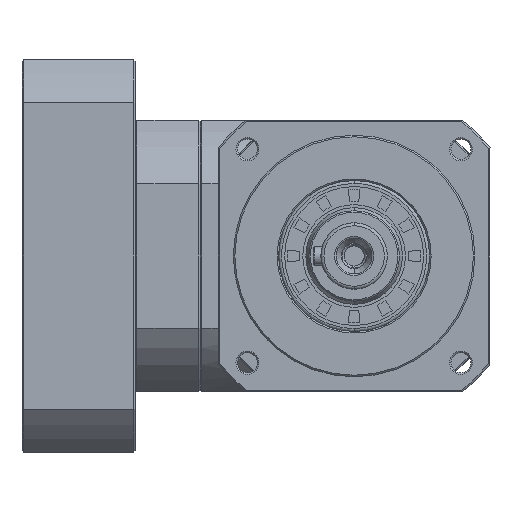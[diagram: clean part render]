
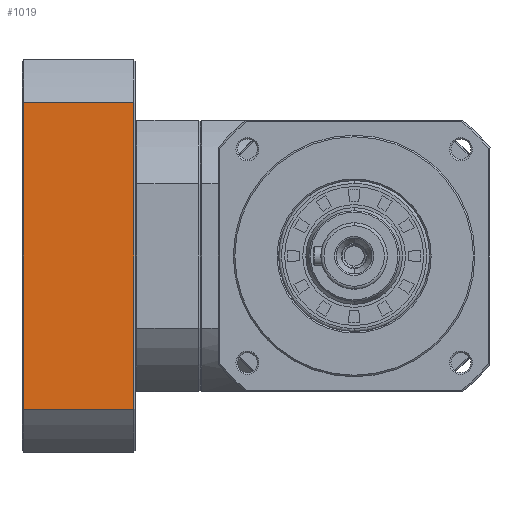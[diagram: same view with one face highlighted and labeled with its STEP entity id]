
A CAD part, left-side view. The second image highlights one B-rep face of the part: STEP entity #1019.
In plain terms, the highlighted planar face has unit normal (1, 0, 0).
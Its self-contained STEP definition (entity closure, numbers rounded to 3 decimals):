
#175 = CARTESIAN_POINT ( 'NONE',  ( 54., 109.5, -50.806 ) ) ;
#809 = AXIS2_PLACEMENT_3D ( 'NONE', #62588, #18871, #55010 ) ;
#1019 = ADVANCED_FACE ( 'NONE', ( #82200 ), #91212, .F. ) ;
#1586 = EDGE_CURVE ( 'NONE', #88810, #27774, #14074, .T. ) ;
#4761 = VERTEX_POINT ( 'NONE', #43321 ) ;
#6462 = EDGE_LOOP ( 'NONE', ( #35577, #13962, #18000, #15698 ) ) ;
#10826 = EDGE_CURVE ( 'NONE', #88810, #49945, #54413, .T. ) ;
#13962 = ORIENTED_EDGE ( 'NONE', *, *, #1586, .F. ) ;
#14074 = LINE ( 'NONE', #72061, #48073 ) ;
#15107 = DIRECTION ( 'NONE',  ( 0., 1., 0. ) ) ;
#15698 = ORIENTED_EDGE ( 'NONE', *, *, #24479, .F. ) ;
#18000 = ORIENTED_EDGE ( 'NONE', *, *, #10826, .T. ) ;
#18871 = DIRECTION ( 'NONE',  ( -1., 0., 0. ) ) ;
#18946 = CARTESIAN_POINT ( 'NONE',  ( 54., 73., 0. ) ) ;
#21553 = CARTESIAN_POINT ( 'NONE',  ( 54., 91.25, 50.806 ) ) ;
#24479 = EDGE_CURVE ( 'NONE', #4761, #49945, #79611, .T. ) ;
#25587 = DIRECTION ( 'NONE',  ( 0., 0., 1. ) ) ;
#25741 = CARTESIAN_POINT ( 'NONE',  ( 54., 73., 50.806 ) ) ;
#27774 = VERTEX_POINT ( 'NONE', #175 ) ;
#29144 = DIRECTION ( 'NONE',  ( 0., -1., 0. ) ) ;
#35577 = ORIENTED_EDGE ( 'NONE', *, *, #56213, .T. ) ;
#36298 = CARTESIAN_POINT ( 'NONE',  ( 54., 91.25, -50.806 ) ) ;
#43146 = DIRECTION ( 'NONE',  ( 0., 0., -1. ) ) ;
#43321 = CARTESIAN_POINT ( 'NONE',  ( 54., 73., -50.806 ) ) ;
#48073 = VECTOR ( 'NONE', #43146, 1000. ) ;
#49945 = VERTEX_POINT ( 'NONE', #25741 ) ;
#53466 = VECTOR ( 'NONE', #25587, 1000. ) ;
#54413 = LINE ( 'NONE', #21553, #64613 ) ;
#55010 = DIRECTION ( 'NONE',  ( 0., 0., 1. ) ) ;
#55813 = LINE ( 'NONE', #36298, #66003 ) ;
#56213 = EDGE_CURVE ( 'NONE', #4761, #27774, #55813, .T. ) ;
#62071 = CARTESIAN_POINT ( 'NONE',  ( 54., 109.5, 50.806 ) ) ;
#62588 = CARTESIAN_POINT ( 'NONE',  ( 54., 73., -50.806 ) ) ;
#64613 = VECTOR ( 'NONE', #29144, 1000. ) ;
#66003 = VECTOR ( 'NONE', #15107, 1000. ) ;
#72061 = CARTESIAN_POINT ( 'NONE',  ( 54., 109.5, 0. ) ) ;
#79611 = LINE ( 'NONE', #18946, #53466 ) ;
#82200 = FACE_OUTER_BOUND ( 'NONE', #6462, .T. ) ;
#88810 = VERTEX_POINT ( 'NONE', #62071 ) ;
#91212 = PLANE ( 'NONE',  #809 ) ;
